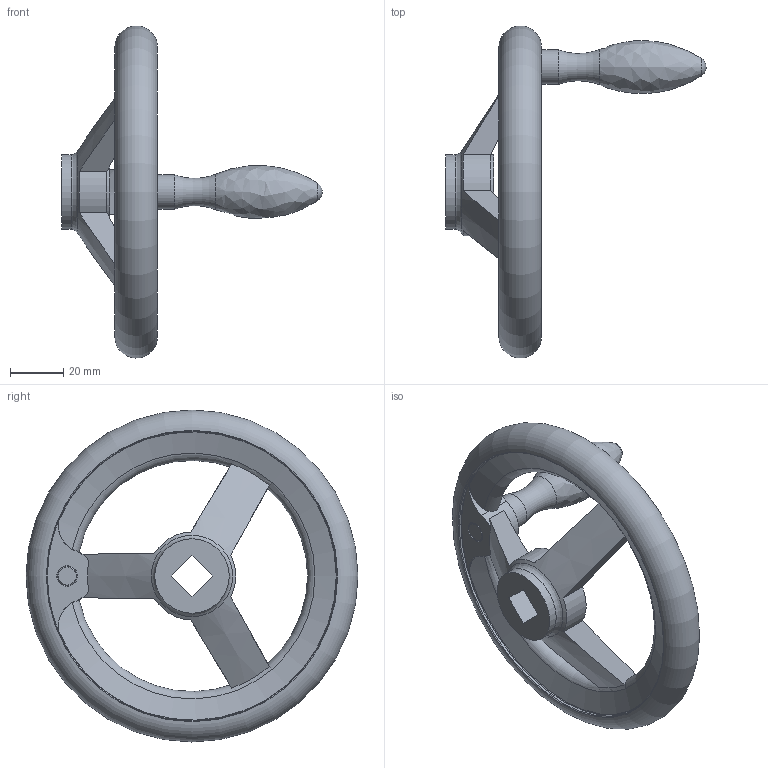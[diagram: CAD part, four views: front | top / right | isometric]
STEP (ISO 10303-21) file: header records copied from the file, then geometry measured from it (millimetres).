
FILE_DESCRIPTION( ( 'STEP AP203' ), '1' );
FILE_NAME( 'C:/Temp/Ganter_Step_05_03_2020/data/1_3/din_950/din_950_v/din_950_v_f/Handwheel DIN 950-AL-125-V11-F.stp', '2020-03-05T10:31:45', ( 'License CC BY-ND 4.0' ), ( 'CADENAS' ), ' ', 'PARTsolutions', ' ' );
FILE_SCHEMA( ( 'CONFIG_CONTROL_DESIGN' ) );
Length unit declared in the file: millimetre
Products named in the file (1): _Handwheel DIN 950-AL-125-V11-F
Bounding box: 98 x 124.98 x 124.98 mm (x, y, z)
Volume: 104609.9 mm3; surface area: 29629.1 mm2
Topology: 1 solids, 1 shells, 49 faces, 139 edges, 89 vertices
Faces by surface type: plane 15, cylinder 13, torus 13, cone 6, sphere 1, bspline 1
Full cylindrical faces by diameter (mm): 13 x1, 28 x2, 109 x2
Entity records: 1815 total; most frequent: CARTESIAN_POINT 653, ORIENTED_EDGE 224, DIRECTION 216, EDGE_CURVE 112, AXIS2_PLACEMENT_3D 96, VERTEX_POINT 83, EDGE_LOOP 73, FACE_OUTER_BOUND 63
